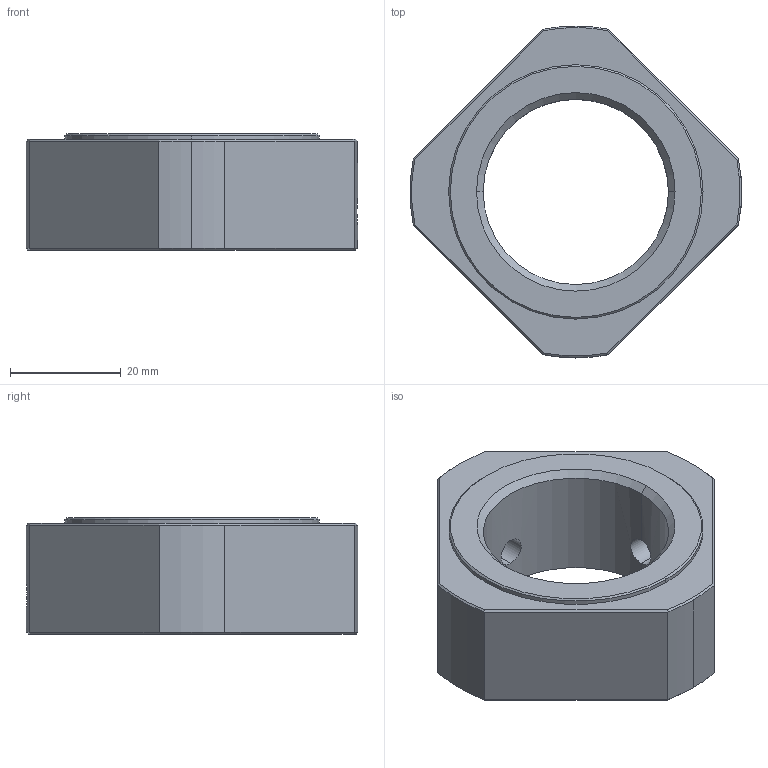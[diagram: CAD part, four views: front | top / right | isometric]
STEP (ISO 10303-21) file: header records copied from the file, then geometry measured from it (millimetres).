
FILE_DESCRIPTION (( 'STEP AP203' ), '1' );
FILE_NAME ('35玛㏕脸碪(家舱篈).STEP', '2013-01-22T02:30:29', ( '' ), ( '' ), 'SwSTEP 2.0', 'SolidWorks 2012', '' );
FILE_SCHEMA (( 'CONFIG_CONTROL_DESIGN' ));
Length unit declared in the file: millimetre
Products named in the file (1): 35鎖固螺帽(模型組態)
Bounding box: 59.93 x 60 x 21 mm (x, y, z)
Volume: 30054.2 mm3; surface area: 9135.8 mm2
Topology: 1 solids, 1 shells, 46 faces, 105 edges, 61 vertices
Faces by surface type: plane 15, cone 14, cylinder 13, bspline 4
Entity records: 1747 total; most frequent: CARTESIAN_POINT 681, ORIENTED_EDGE 210, DIRECTION 192, EDGE_CURVE 105, AXIS2_PLACEMENT_3D 76, VERTEX_POINT 61, EDGE_LOOP 52, FACE_OUTER_BOUND 46
